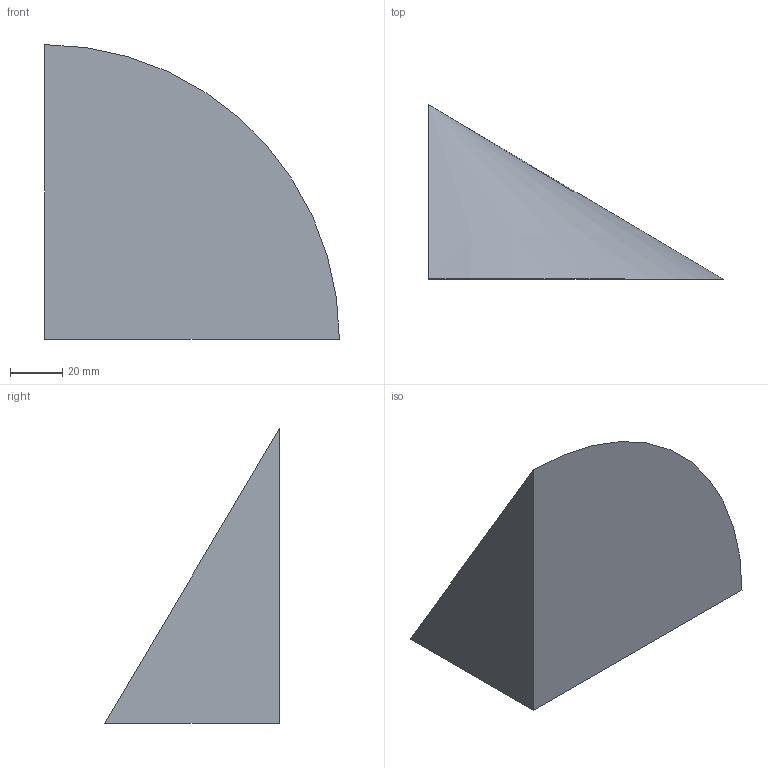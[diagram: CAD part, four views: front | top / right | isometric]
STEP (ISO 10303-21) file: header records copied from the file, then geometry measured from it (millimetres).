
FILE_DESCRIPTION(('CATIA V5 STEP Exchange'),'2;1');
FILE_NAME('C:\_Andres\UNIVERSIDAD\IQS\ASIGNATURAS\DAO\EXF\EXF-16172c\2inicio\Gumá_Abizanda_Ej07_v13.stp','2017-03-05T21:18:12+00:00',('none'),('none'),'CATIA Version 5-6 Release 2014 SP1 HF18','CATIA V5 STEP AP203','none');
FILE_SCHEMA(('CONFIG_CONTROL_DESIGN'));
Length unit declared in the file: millimetre
Products named in the file (1): Gumá_Abizanda_Ej07_v13
Bounding box: 113 x 67 x 113 mm (x, y, z)
Volume: 223975.4 mm3; surface area: 29258.8 mm2
Topology: 1 solids, 1 shells, 4 faces, 7 edges, 4 vertices
Faces by surface type: plane 3, cone 1
Entity records: 131 total; most frequent: CARTESIAN_POINT 15, DIRECTION 14, ORIENTED_EDGE 12, AXIS2_PLACEMENT_3D 6, EDGE_CURVE 6, VECTOR 5, LINE 5, ADVANCED_FACE 4
